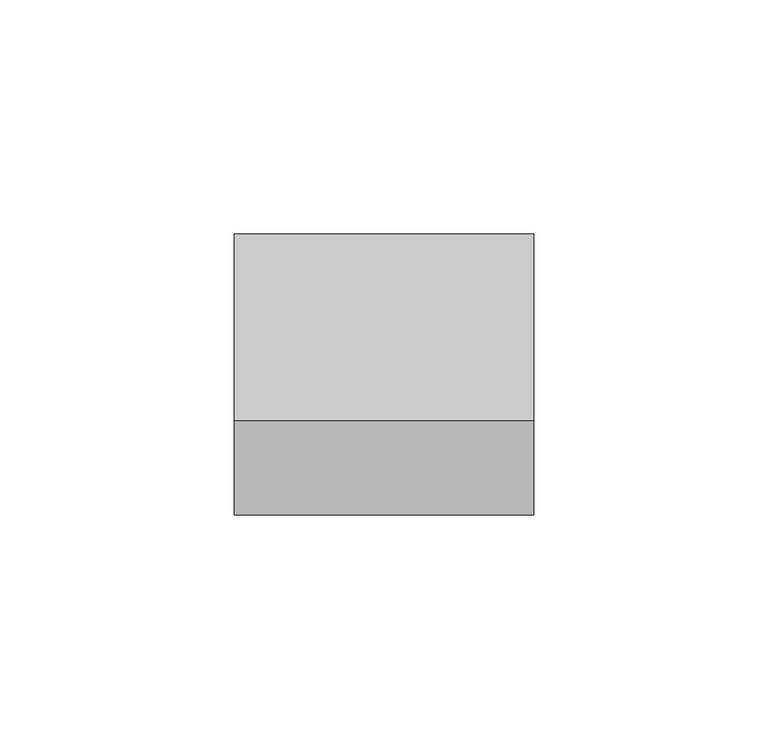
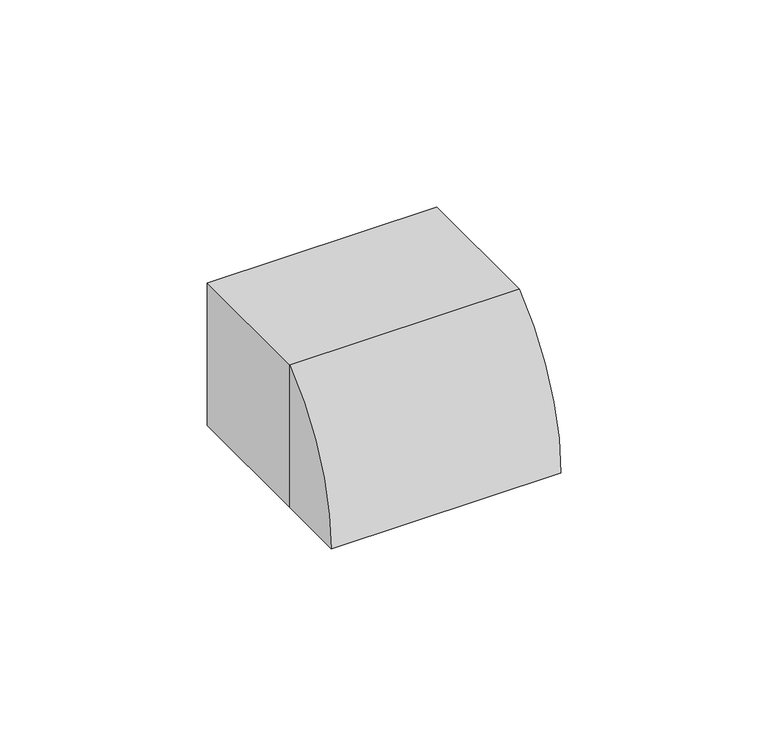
"""IFC4 building model written with IfcOpenShell, lengths in millimetres: proxy geometry, Заглушка_кабельной_трассы КМЗ : Заглушка кабельной трассы КМЗ 60х40."""

from ifc_helpers import new_model, si_unit, frame, origin, place, context, project, spatial, polyline, circle_curve, outline, extrude, source, transform, mapped, element, save
from ifc_brep_helpers import plane_surface, cylinder_surface, revolved_surface, advanced_brep


def generic_models_557376e7(model_context):
    return source(origin(), model_context, "Body", "SolidModel", [
        advanced_brep(
        [(12.0, -40.0, 0.0), (12.0, -40.0, 42.0), (12.0, -60.0, 0.0), (-52.0, -40.0, 0.0), (-52.0, -60.0, 0.0), (-52.0, -40.0, 42.0), (10.0, -40.0, 0.0), (10.0, -40.0, 40.0), (-50.0, -40.0, 40.0), (-50.0, -40.0, 0.0), (-50.0, -58.6369021, 0.0), (10.0, -58.6369021, 0.0)],
        [
            (0, 1),
            (1, 2, circle_curve(frame((12.0, -5.1340485, -0.3647388), z_axis=(1.0, 0.0, 0.0), x_axis=(0.0, 1.0, 0.0)), 54.8671639)),
            (2, 0),
            (3, 4),
            (4, 5, circle_curve(frame((-52.0, -5.1340485, -0.3647388), z_axis=(-1.0, 0.0, 0.0), x_axis=(0.0, 1.0, 0.0)), 54.8671639)),
            (5, 3),
            (0, 6),
            (6, 7),
            (7, 8),
            (8, 9),
            (9, 3),
            (5, 1),
            (4, 2),
            (9, 10),
            (10, 11),
            (11, 6),
            (11, 7, circle_curve(frame((10.0, -4.8124322, -0.7363579), z_axis=(-1.0, 0.0, 0.0), x_axis=(0.0, 1.0, 0.0)), 53.8295066)),
            (8, 10, circle_curve(frame((-50.0, -4.8124322, -0.7363579), z_axis=(1.0, 0.0, 0.0), x_axis=(0.0, 1.0, 0.0)), 53.8295066)),
        ],
        [
            plane_surface(frame((12.0, -40.0, 42.0), z_axis=(1.0, 0.0, 0.0), x_axis=(0.0, 0.0, 1.0))),
            plane_surface(frame((-52.0, -40.0, 42.0), z_axis=(-1.0, 0.0, 0.0), x_axis=(0.0, 0.0, -1.0))),
            plane_surface(frame((12.0, -40.0, 0.0), z_axis=(0.0, 1.0, 0.0), x_axis=(-1.0, 0.0, 0.0))),
            cylinder_surface(frame((-52.0, -5.1340485, -0.3647388), z_axis=(1.0, 0.0, 0.0), x_axis=(0.0, 1.0, 0.0)), 54.8671639),
            plane_surface(frame((12.0, -60.0, 0.0), z_axis=(0.0, 0.0, -1.0), x_axis=(-1.0, 0.0, 0.0))),
            plane_surface(frame((10.0, -40.0, 40.0), z_axis=(-1.0, 0.0, 0.0), x_axis=(0.0, 0.0, 1.0))),
            plane_surface(frame((-50.0, -40.0, 40.0), z_axis=(1.0, 0.0, 0.0), x_axis=(0.0, 0.0, -1.0))),
            revolved_surface(polyline([(10.0, 49.0170744, -0.7363579), (-50.0, 49.0170744, -0.7363579)]), (-50.0, -4.8124322, -0.7363579), (1.0, 0.0, 0.0)),
        ],
        [
            (0, [[1, 2, 3]]),
            (1, [[4, 5, 6]]),
            (2, [[-1, 7, 8, 9, 10, 11, -6, 12]]),
            (3, [[-2, -12, -5, 13]]),
            (4, [[-3, -13, -4, -11, 14, 15, 16, -7]]),
            (5, [[17, -8, -16]]),
            (6, [[18, -14, -10]]),
            (7, [[-17, -15, -18, -9]]),
        ],
    ),
        extrude(outline(polyline([(42.0, 12.0), (42.0, -52.0), (0.0, -52.0), (0.0, -50.0), (40.0, -50.0), (40.0, 10.0), (0.0, 10.0), (0.0, 12.0), (42.0, 12.0)])), frame((0.0, -40.0, 0.0), z_axis=(0.0, 1.0, 0.0), x_axis=(0.0, 0.0, 1.0)), (0.0, 0.0, 1.0), 40.0),
    ])


if __name__ == "__main__":
    model = new_model("IFC4")
    model_context = context("Model", 3, world=origin())
    ifc_project = project(units=[si_unit("LENGTHUNIT", "METRE", prefix="MILLI")], contexts=[model_context])
    site = spatial("IfcSite", under=ifc_project)
    building = spatial("IfcBuilding", under=site)
    placement = place(None, origin())
    generic_models_shape = generic_models_557376e7(model_context)
    element("IfcBuildingElementProxy", 1, Name="Заглушка_кабельной_трассы КМЗ : Заглушка кабельной трассы КМЗ 60х40", ObjectType="Заглушка_кабельной_трассы КМЗ : Заглушка кабельной трассы КМЗ 60х40", at=placement, inside=building, context=model_context, shape_type="MappedRepresentation", body=[
        mapped(generic_models_shape, transform((0.0, 0.0, 0.0), x_axis=(1.0, 0.0, 0.0), y_axis=(0.0, 1.0, 0.0), z_axis=(0.0, 0.0, 1.0))),
    ])
    save(model, "model.ifc")
